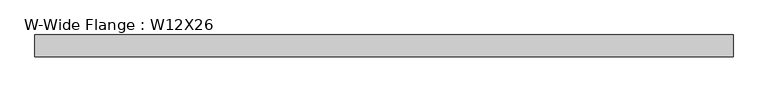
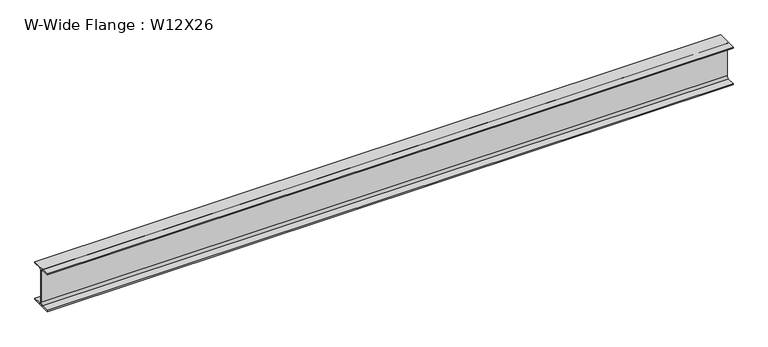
"""IFC4 building model written with IfcOpenShell, lengths in millimetres: beam geometry, W-Wide Flange : W12X26."""

from ifc_helpers import new_model, si_unit, point, frame, frame_2d, origin, place, context, project, spatial, polyline, circle_curve, trimmed, segment, composite_curve, outline, extrude, source, transform, mapped, element, save


def w_wide_flange_w12x26_2a2bf782(model_context):
    return source(origin(), model_context, "Body", "SweptSolid", [
        extrude(outline(composite_curve([segment(polyline([(-82.423, -145.288), (-20.2565, -145.288)]), True, "CONTINUOUS"), segment(trimmed(circle_curve(frame_2d((-20.2565, -127.9525)), 17.3355), [point((-20.2565, -145.288))], [point((-2.921, -127.9525))], True, "CARTESIAN"), True, "CONTINUOUS"), segment(polyline([(-2.921, -127.9525), (-2.921, 127.9525)]), True, "CONTINUOUS"), segment(trimmed(circle_curve(frame_2d((-20.2565, 127.9525)), 17.3355), [point((-2.921, 127.9525))], [point((-20.2565, 145.288))], True, "CARTESIAN"), True, "CONTINUOUS"), segment(polyline([(-20.2565, 145.288), (-82.423, 145.288), (-82.423, 154.94), (82.423, 154.94), (82.423, 145.288), (20.2565, 145.288)]), True, "CONTINUOUS"), segment(trimmed(circle_curve(frame_2d((20.2565, 127.9525)), 17.3355), [point((20.2565, 145.288))], [point((2.921, 127.9525))], True, "CARTESIAN"), True, "CONTINUOUS"), segment(polyline([(2.921, 127.9525), (2.921, -127.9525)]), True, "CONTINUOUS"), segment(trimmed(circle_curve(frame_2d((20.2565, -127.9525)), 17.3355), [point((2.921, -127.9525))], [point((20.2565, -145.288))], True, "CARTESIAN"), True, "CONTINUOUS"), segment(polyline([(20.2565, -145.288), (82.423, -145.288), (82.423, -154.94), (-82.423, -154.94), (-82.423, -145.288)]), True, "CONTINUOUS")], self_intersect=False)), frame((-4026.027, 0.0, 0.0), z_axis=(1.0, 0.0, 0.0), x_axis=(0.0, 1.0, 0.0)), (0.0, 0.0, 1.0), 5308.854),
    ])


if __name__ == "__main__":
    model = new_model("IFC4")
    model_context = context("Model", 3, world=origin())
    ifc_project = project(units=[si_unit("LENGTHUNIT", "METRE", prefix="MILLI")], contexts=[model_context])
    site = spatial("IfcSite", under=ifc_project)
    building = spatial("IfcBuilding", under=site)
    placement = place(None, origin())
    w_wide_flange_w12x26_shape = w_wide_flange_w12x26_2a2bf782(model_context)
    element("IfcBeam", 1, ObjectType="W-Wide Flange : W12X26", at=placement, inside=building, context=model_context, shape_type="MappedRepresentation", body=[
        mapped(w_wide_flange_w12x26_shape, transform((0.0, 0.0, 0.0), x_axis=(1.0, 0.0, 0.0), y_axis=(0.0, 1.0, 0.0), z_axis=(0.0, 0.0, 1.0))),
    ])
    save(model, "model.ifc")
